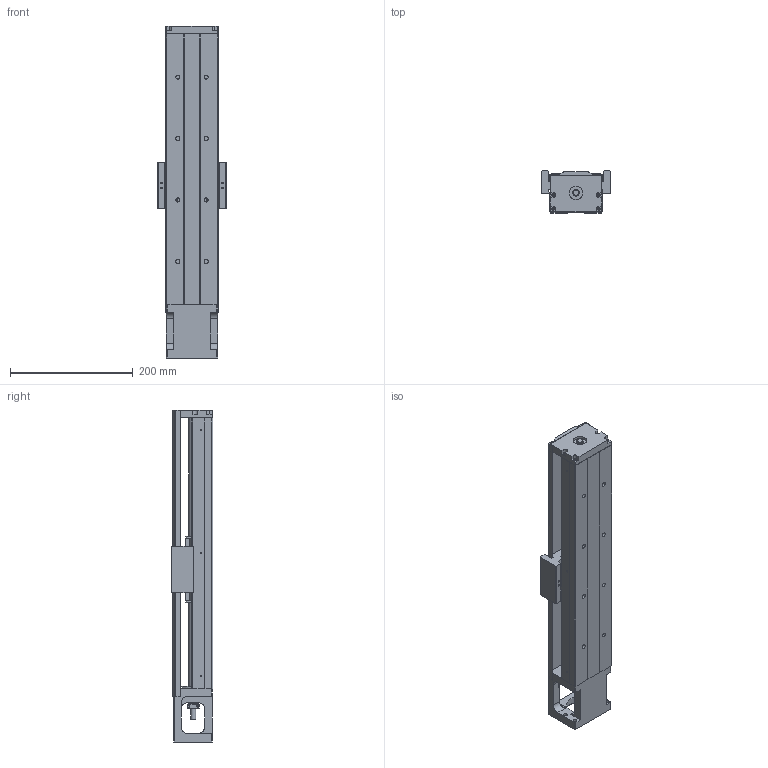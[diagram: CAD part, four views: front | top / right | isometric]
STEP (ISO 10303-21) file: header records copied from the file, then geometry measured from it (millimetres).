
FILE_DESCRIPTION(/* description */ (''),/* implementation_level */ '2;1');
FILE_NAME(/* name */ 'KP46N-440-C.stp',/* time_stamp */ '2020-06-05T09:50:53+08:00',/* author */ (''),/* organization */ (''),/* preprocessor_version */ 'ST-DEVELOPER v14',/* originating_system */ 'SIEMENS PLM Software NX 8.0',/* authorisation */ '');
FILE_SCHEMA (('AUTOMOTIVE_DESIGN { 1 0 10303 214 3 1 1 1 }'));
Length unit declared in the file: millimetre
Products named in the file (1): model1
Bounding box: 112 x 68 x 540 mm (x, y, z)
Volume: 1557588.2 mm3; surface area: 384190.3 mm2
Topology: 7 solids, 19 shells, 700 faces, 1826 edges, 1204 vertices
Faces by surface type: plane 342, cylinder 249, cone 60, bspline 41, torus 8
Full cylindrical faces by diameter (mm): 2.11 x4, 2.15 x6, 2.42 x8, 2.5 x4, 3 x6, 3.2 x4, 3.3 x12, 3.4 x8, 4 x4, 4.2 x4, 4.5 x8, 5 x14, 6 x8, 6.35 x2, 6.6 x8, 8 x1, 9.6 x1, 10 x3, 11 x8, 12 x1, 14.95 x2, 15 x1, 16 x2, 22 x3, 27.5 x1, 44 x1, 50 x1
Entity records: 31788 total; most frequent: CARTESIAN_POINT 12952, ORIENTED_EDGE 3138, DIRECTION 3123, EDGE_CURVE 1569, AXIS2_PLACEMENT_3D 1143, VERTEX_POINT 1130, EDGE_LOOP 981, LINE 837
